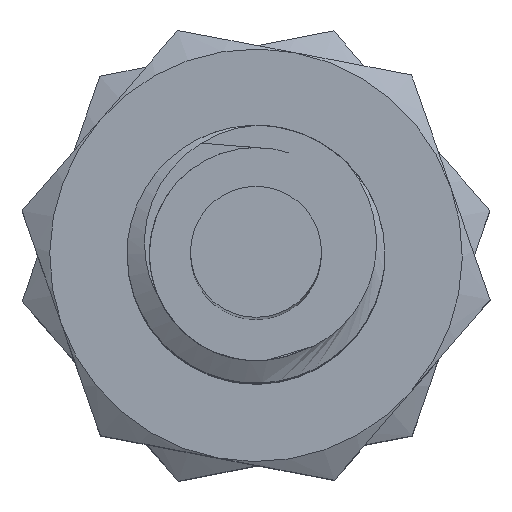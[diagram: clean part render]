
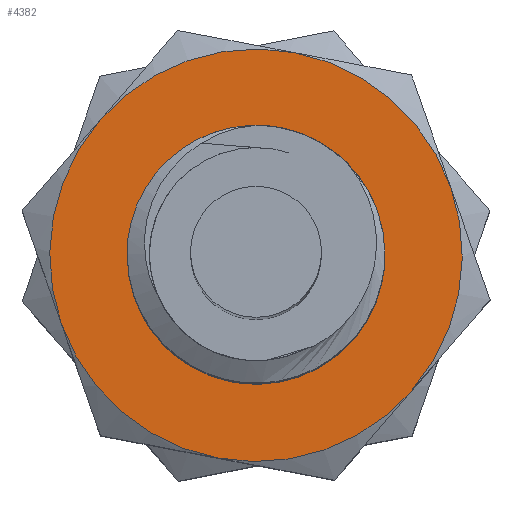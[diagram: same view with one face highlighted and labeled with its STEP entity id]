
A CAD part, top view. The second image highlights one B-rep face of the part: STEP entity #4382.
In plain terms, the highlighted planar face has unit normal (0, 0, 1).
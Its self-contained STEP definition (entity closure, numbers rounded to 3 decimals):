
#3922 = DIRECTION ( 'NONE',  ( 1., 0., 0. ) ) ;
#3923 = DIRECTION ( 'NONE',  ( 0., 0., 1. ) ) ;
#3924 = CARTESIAN_POINT ( 'NONE',  ( 0., 0., 0. ) ) ;
#3925 = AXIS2_PLACEMENT_3D ( 'NONE', #3924, #3923, #3922 ) ;
#3926 = CIRCLE ( 'NONE', #3925, 2.5 ) ;
#3931 = CARTESIAN_POINT ( 'NONE',  ( 2.5, 0., 0. ) ) ;
#4367 = VERTEX_POINT ( 'NONE', #7909 ) ;
#4370 = EDGE_CURVE ( 'NONE', #4376, #4371, #7956, .T. ) ;
#4371 = VERTEX_POINT ( 'NONE', #7951 ) ;
#4372 = EDGE_CURVE ( 'NONE', #4371, #4367, #7950, .T. ) ;
#4373 = ORIENTED_EDGE ( 'NONE', *, *, #4372, .T. ) ;
#4374 = ORIENTED_EDGE ( 'NONE', *, *, #4370, .T. ) ;
#4376 = VERTEX_POINT ( 'NONE', #7945 ) ;
#4377 = VERTEX_POINT ( 'NONE', #7944 ) ;
#4381 = ORIENTED_EDGE ( 'NONE', *, *, #4383, .T. ) ;
#4382 = ADVANCED_FACE ( 'NONE', ( #7943, #7942 ), #7941, .T. ) ;
#4383 = EDGE_CURVE ( 'NONE', #4377, #4376, #7940, .T. ) ;
#4384 = EDGE_LOOP ( 'NONE', ( #4381, #4374, #4373, #4394, #4402, #4409 ) ) ;
#4391 = EDGE_LOOP ( 'NONE', ( #4397, #4405 ) ) ;
#4394 = ORIENTED_EDGE ( 'NONE', *, *, #4407, .T. ) ;
#4395 = VERTEX_POINT ( 'NONE', #7992 ) ;
#4397 = ORIENTED_EDGE ( 'NONE', *, *, #4401, .F. ) ;
#4398 = EDGE_CURVE ( 'NONE', #4408, #4377, #7989, .T. ) ;
#4401 = EDGE_CURVE ( 'NONE', #6449, #5278, #7978, .T. ) ;
#4402 = ORIENTED_EDGE ( 'NONE', *, *, #4403, .T. ) ;
#4403 = EDGE_CURVE ( 'NONE', #4395, #4408, #7973, .T. ) ;
#4405 = ORIENTED_EDGE ( 'NONE', *, *, #6450, .F. ) ;
#4407 = EDGE_CURVE ( 'NONE', #4367, #4395, #8015, .T. ) ;
#4408 = VERTEX_POINT ( 'NONE', #8010 ) ;
#4409 = ORIENTED_EDGE ( 'NONE', *, *, #4398, .T. ) ;
#5278 = VERTEX_POINT ( 'NONE', #12802 ) ;
#6449 = VERTEX_POINT ( 'NONE', #3931 ) ;
#6450 = EDGE_CURVE ( 'NONE', #5278, #6449, #3926, .T. ) ;
#7909 = CARTESIAN_POINT ( 'NONE',  ( -2., 3.464, 0. ) ) ;
#7933 = DIRECTION ( 'NONE',  ( 0., 0., 1. ) ) ;
#7934 = CARTESIAN_POINT ( 'NONE',  ( 0., 0., 0. ) ) ;
#7935 = AXIS2_PLACEMENT_3D ( 'NONE', #7934, #7933, #7994 ) ;
#7936 = DIRECTION ( 'NONE',  ( 1., 0., 0. ) ) ;
#7937 = DIRECTION ( 'NONE',  ( 0., 0., 1. ) ) ;
#7938 = CARTESIAN_POINT ( 'NONE',  ( -8., 0., 0. ) ) ;
#7939 = AXIS2_PLACEMENT_3D ( 'NONE', #7938, #7937, #7936 ) ;
#7940 = CIRCLE ( 'NONE', #7935, 4. ) ;
#7941 = PLANE ( 'NONE',  #7939 ) ;
#7942 = FACE_BOUND ( 'NONE', #4391, .T. ) ;
#7943 = FACE_OUTER_BOUND ( 'NONE', #4384, .T. ) ;
#7944 = CARTESIAN_POINT ( 'NONE',  ( 2., -3.464, 0. ) ) ;
#7945 = CARTESIAN_POINT ( 'NONE',  ( 4., 0., 0. ) ) ;
#7946 = DIRECTION ( 'NONE',  ( 1., 0., 0. ) ) ;
#7947 = DIRECTION ( 'NONE',  ( 0., 0., 1. ) ) ;
#7948 = CARTESIAN_POINT ( 'NONE',  ( 0., 0., 0. ) ) ;
#7949 = AXIS2_PLACEMENT_3D ( 'NONE', #7948, #7947, #7946 ) ;
#7950 = CIRCLE ( 'NONE', #7949, 4. ) ;
#7951 = CARTESIAN_POINT ( 'NONE',  ( 2., 3.464, 0. ) ) ;
#7952 = DIRECTION ( 'NONE',  ( 1., 0., 0. ) ) ;
#7953 = DIRECTION ( 'NONE',  ( 0., 0., 1. ) ) ;
#7954 = CARTESIAN_POINT ( 'NONE',  ( 0., 0., 0. ) ) ;
#7955 = AXIS2_PLACEMENT_3D ( 'NONE', #7954, #7953, #7952 ) ;
#7956 = CIRCLE ( 'NONE', #7955, 4. ) ;
#7970 = DIRECTION ( 'NONE',  ( 1., 0., 0. ) ) ;
#7971 = DIRECTION ( 'NONE',  ( 0., 0., 1. ) ) ;
#7972 = AXIS2_PLACEMENT_3D ( 'NONE', #7979, #7971, #7970 ) ;
#7973 = CIRCLE ( 'NONE', #7972, 4. ) ;
#7974 = DIRECTION ( 'NONE',  ( 1., 0., 0. ) ) ;
#7975 = DIRECTION ( 'NONE',  ( 0., 0., 1. ) ) ;
#7976 = CARTESIAN_POINT ( 'NONE',  ( 0., 0., 0. ) ) ;
#7977 = AXIS2_PLACEMENT_3D ( 'NONE', #7976, #7975, #7974 ) ;
#7978 = CIRCLE ( 'NONE', #7977, 2.5 ) ;
#7979 = CARTESIAN_POINT ( 'NONE',  ( 0., 0., 0. ) ) ;
#7981 = DIRECTION ( 'NONE',  ( 1., 0., 0. ) ) ;
#7982 = DIRECTION ( 'NONE',  ( 0., 0., 1. ) ) ;
#7983 = CARTESIAN_POINT ( 'NONE',  ( 0., 0., 0. ) ) ;
#7984 = AXIS2_PLACEMENT_3D ( 'NONE', #7983, #7982, #7981 ) ;
#7989 = CIRCLE ( 'NONE', #7984, 4. ) ;
#7992 = CARTESIAN_POINT ( 'NONE',  ( -4., 0., 0. ) ) ;
#7994 = DIRECTION ( 'NONE',  ( 1., 0., 0. ) ) ;
#8010 = CARTESIAN_POINT ( 'NONE',  ( -2., -3.464, 0. ) ) ;
#8011 = DIRECTION ( 'NONE',  ( 1., 0., 0. ) ) ;
#8012 = DIRECTION ( 'NONE',  ( 0., 0., 1. ) ) ;
#8013 = CARTESIAN_POINT ( 'NONE',  ( 0., 0., 0. ) ) ;
#8014 = AXIS2_PLACEMENT_3D ( 'NONE', #8013, #8012, #8011 ) ;
#8015 = CIRCLE ( 'NONE', #8014, 4. ) ;
#12802 = CARTESIAN_POINT ( 'NONE',  ( -2.5, 0., 0. ) ) ;
